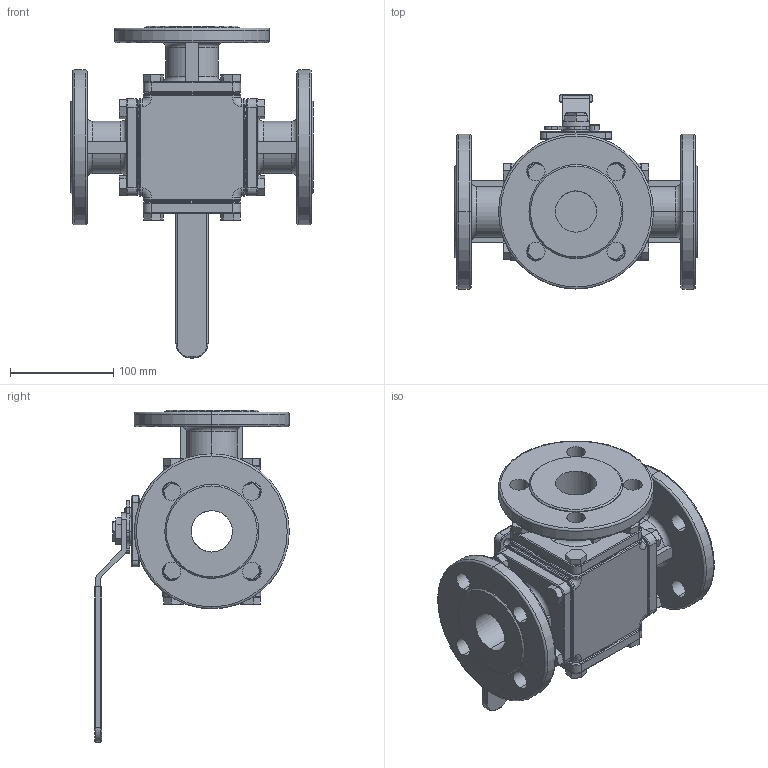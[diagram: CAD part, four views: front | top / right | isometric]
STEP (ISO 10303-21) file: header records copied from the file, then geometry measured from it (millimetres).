
FILE_DESCRIPTION (( 'STEP AP214' ), '1' );
FILE_NAME ('S316D DN40 HB.step', '2011-04-20T13:25:02', ( '' ), ( '' ), 'SwSTEP 2.0', 'SolidWorks 2011', '' );
FILE_SCHEMA (( 'AUTOMOTIVE_DESIGN' ));
Length unit declared in the file: millimetre
Products named in the file (7): S316D Flange end DN40; S316D Blindflens DN40; Hex Nut Style 1 GradeAB_DIN_Hexagon Nut ISO 4032 - M6 - D - N; Socket Head Cap Screw_DIN_DIN 912 M6 x 16 --- 16N; S316D Hendel DN40; S316D KK DN40 PN16; S316D DN40 HB
Assembly tree (8 placements, depth 2):
  S316D DN40 HB
    S316D KK DN40 PN16
    S316D Flange end DN40  x3
    Socket Head Cap Screw_DIN_DIN 912 M6 x 16 --- 16N
    S316D Blindflens DN40
    S316D Hendel DN40
    Hex Nut Style 1 GradeAB_DIN_Hexagon Nut ISO 4032 - M6 - D - N
Bounding box: 234.9 x 188.25 x 321.2 mm (x, y, z)
Volume: 2183715.2 mm3; surface area: 370696.9 mm2
Topology: 8 solids, 9 shells, 805 faces, 2009 edges, 1234 vertices
Faces by surface type: plane 399, cylinder 249, torus 115, cone 42
Entity records: 18101 total; most frequent: CARTESIAN_POINT 3505, DIRECTION 3079, ORIENTED_EDGE 2882, EDGE_CURVE 1441, AXIS2_PLACEMENT_3D 1144, VERTEX_POINT 878, LINE 791, VECTOR 791
